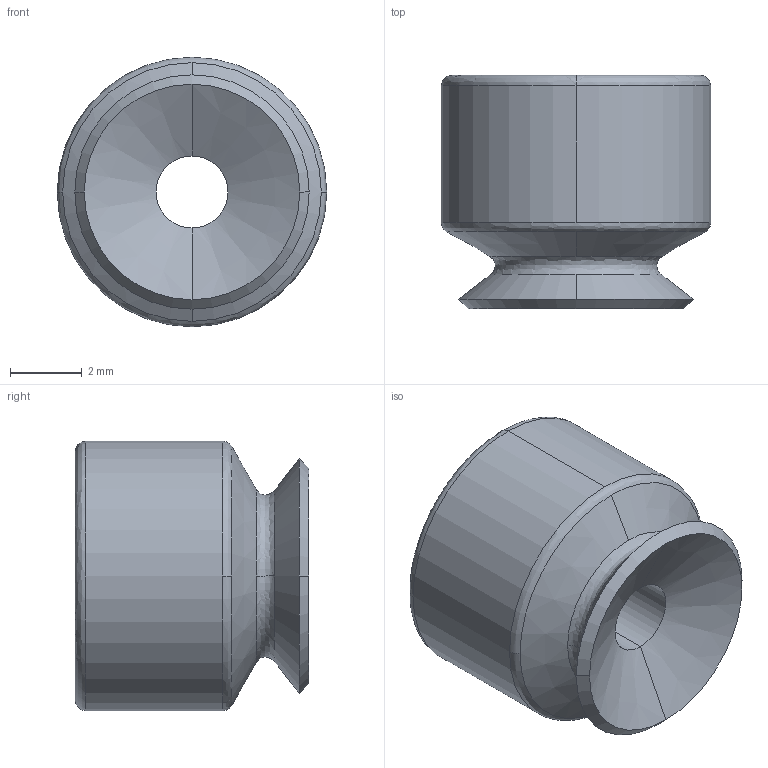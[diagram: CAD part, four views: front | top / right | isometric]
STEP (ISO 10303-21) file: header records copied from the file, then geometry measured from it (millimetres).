
FILE_DESCRIPTION (( 'STEP AP214' ), '1' );
FILE_NAME ('VS-PG6.STEP', '2019-11-13T07:41:11', ( '微软用户' ), ( '微软中国' ), 'SwSTEP 2.0', 'SolidWorks 2016', '' );
FILE_SCHEMA (( 'AUTOMOTIVE_DESIGN' ));
Length unit declared in the file: millimetre
Products named in the file (1): VS-PG6
Bounding box: 7.5 x 6.5 x 7.5 mm (x, y, z)
Volume: 145.6 mm3; surface area: 329 mm2
Topology: 1 solids, 1 shells, 31 faces, 78 edges, 50 vertices
Faces by surface type: bspline 12, cone 8, cylinder 8, plane 3
Entity records: 1424 total; most frequent: CARTESIAN_POINT 704, ORIENTED_EDGE 156, DIRECTION 140, EDGE_CURVE 78, AXIS2_PLACEMENT_3D 62, VERTEX_POINT 50, CIRCLE 42, EDGE_LOOP 34
